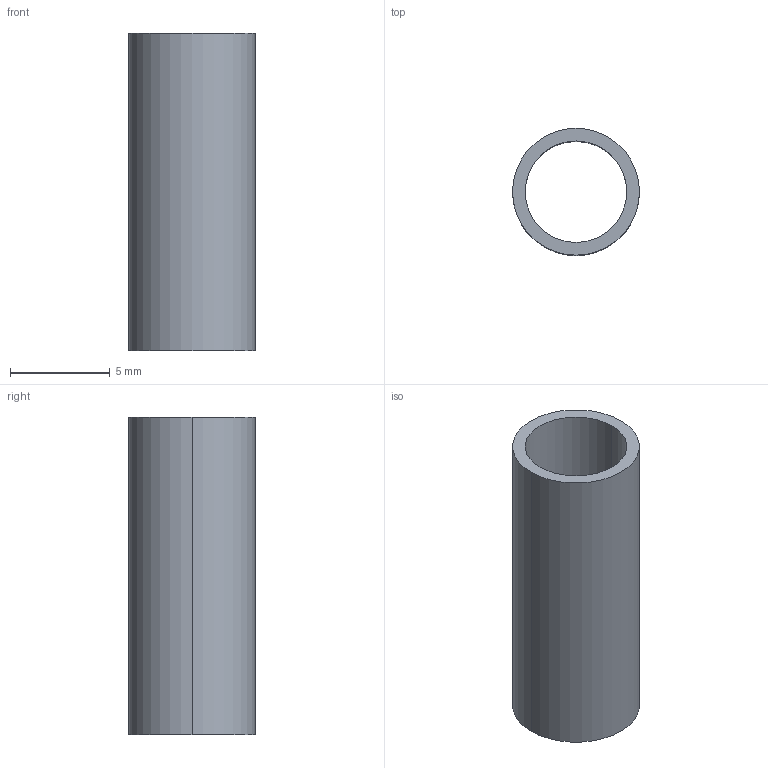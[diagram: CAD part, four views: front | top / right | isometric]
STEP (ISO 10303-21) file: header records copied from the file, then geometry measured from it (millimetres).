
FILE_DESCRIPTION (( 'STEP AP214' ), '1' );
FILE_NAME ('PRESSFIT BUTTON.STEP', '2020-05-25T15:56:57', ( '' ), ( '' ), 'SwSTEP 2.0', 'SolidWorks 2020', '' );
FILE_SCHEMA (( 'AUTOMOTIVE_DESIGN' ));
Length unit declared in the file: inch
Products named in the file (1): PRESSFIT BUTTON
Bounding box: 6.35 x 6.35 x 15.88 mm (x, y, z)
Volume: 181 mm3; surface area: 592.8 mm2
Topology: 1 solids, 1 shells, 6 faces, 12 edges, 8 vertices
Faces by surface type: cylinder 4, plane 2
Entity records: 208 total; most frequent: DIRECTION 34, CARTESIAN_POINT 27, ORIENTED_EDGE 24, AXIS2_PLACEMENT_3D 15, EDGE_CURVE 12, CIRCLE 8, VERTEX_POINT 8, EDGE_LOOP 8
